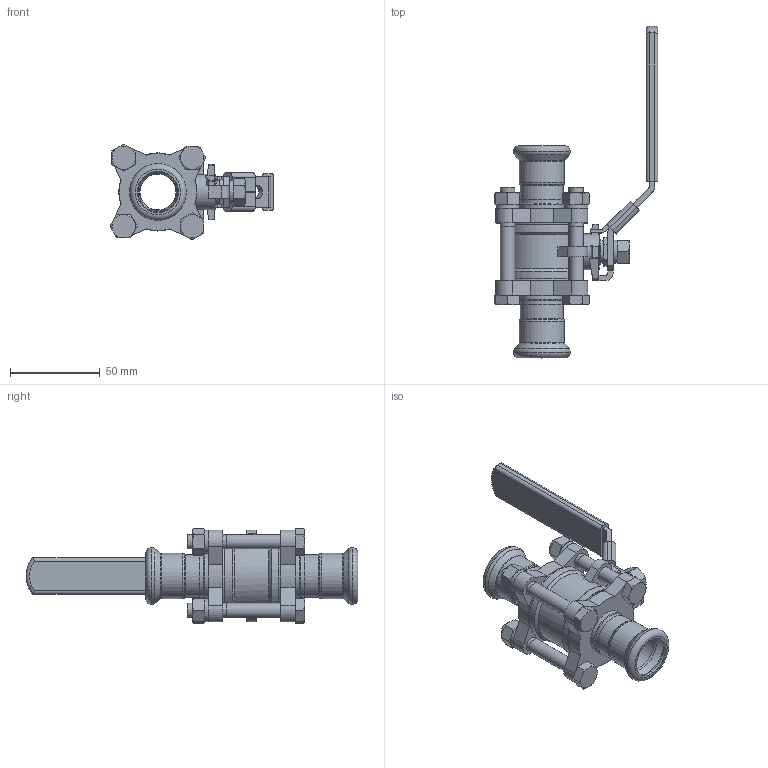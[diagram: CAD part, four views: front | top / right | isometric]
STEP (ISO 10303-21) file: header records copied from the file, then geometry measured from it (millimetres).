
FILE_DESCRIPTION(('STEP AP214'),'1');
FILE_NAME('3-4.stp','2024-05-13T03:12:31',(' '),(' '),'Spatial InterOp 3D',' ',' ');
FILE_SCHEMA(('AUTOMOTIVE_DESIGN { 1 0 10303 214 1 1 1 1 }'));
Length unit declared in the file: millimetre
Products named in the file (21): 3PC卡压球阀3-4; 填料; 阀杆; 小片; 球体; 半截接头; 阀体; 焊接阀盖; 垫圈 ： 单圈弹簧 - M8.0 x 2.1; 螺母 ： 标准 - M8.0 x 6.8; 螺栓 ： 六角头 - M8.0 x 60.0; 阀座; 手柄套; 锁扣; 手柄; 格兰
Assembly tree (29 placements, depth 2):
  3PC卡压球阀3-4
    填料
    阀杆
    小片
    球体
    半截接头
    阀体
    焊接阀盖
    半截接头
    焊接阀盖
    垫圈 ： 单圈弹簧 - M8.0 x 2.1  x4
    螺母 ： 标准 - M8.0 x 6.8  x4
    螺栓 ： 六角头 - M8.0 x 60.0  x4
    阀座
    阀座
    垫圈 ： 单圈弹簧 - M8.0 x 2.1
    螺母 ： 标准 - M8.0 x 6.8
    手柄套
    锁扣
    手柄
    格兰
Bounding box: 91.2 x 184.88 x 53.19 mm (x, y, z)
Volume: 106716 mm3; surface area: 76358.7 mm2
Topology: 29 solids, 29 shells, 516 faces, 1153 edges, 716 vertices
Faces by surface type: plane 247, cylinder 119, cone 117, torus 22, bspline 10, sphere 1
Full cylindrical faces by diameter (mm): 7.5 x1, 8 x9, 8.3 x10, 9.5 x2, 9.7 x1, 10 x2, 12.5 x1, 12.776 x1, 12.9 x1, 13 x2, 14 x1, 14.288 x1, 20 x6, 21 x4, 22.2 x2, 23 x2, 24 x4, 25 x2, 25.2 x2, 31.6 x2, 33.5 x1, 34 x4, 37 x2, 37.1 x2, 43.5 x2
Entity records: 14597 total; most frequent: CARTESIAN_POINT 2716, DIRECTION 1794, ORIENTED_EDGE 1514, EDGE_CURVE 757, AXIS2_PLACEMENT_3D 722, EDGE_LOOP 564, VERTEX_POINT 541, FACE_OUTER_BOUND 463
